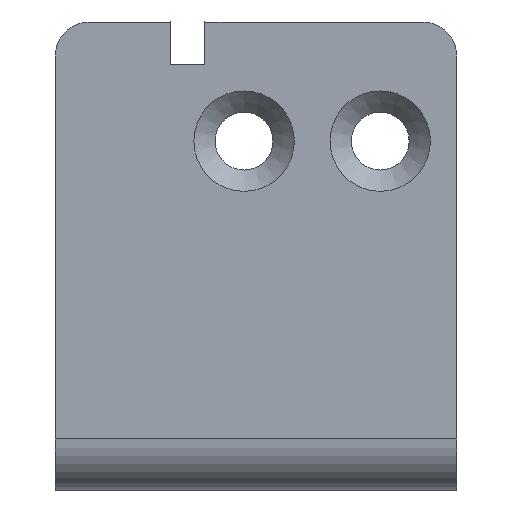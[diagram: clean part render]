
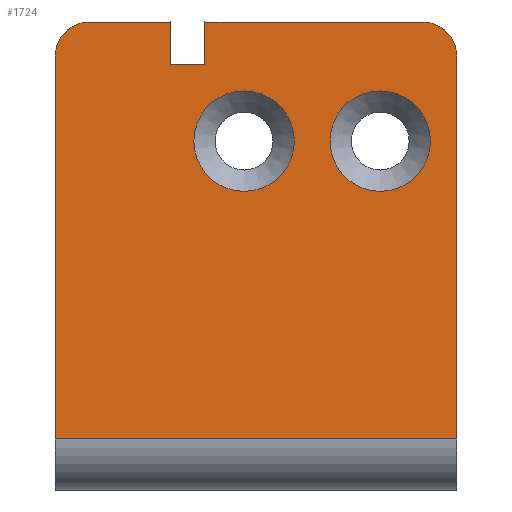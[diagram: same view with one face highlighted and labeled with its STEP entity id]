
A CAD part, left-side view. The second image highlights one B-rep face of the part: STEP entity #1724.
In plain terms, the highlighted planar face has unit normal (-1, 0, 0).
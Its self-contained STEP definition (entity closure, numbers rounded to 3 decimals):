
#140=FACE_BOUND('',#349,.T.);
#141=FACE_BOUND('',#350,.T.);
#174=PLANE('',#1864);
#254=FACE_OUTER_BOUND('',#348,.T.);
#348=EDGE_LOOP('',(#1358,#1359,#1360,#1361,#1362,#1363,#1364,#1365,#1366,
#1367));
#349=EDGE_LOOP('',(#1368));
#350=EDGE_LOOP('',(#1369));
#452=LINE('',#2522,#632);
#462=LINE('',#2551,#642);
#471=LINE('',#2581,#651);
#473=LINE('',#2584,#653);
#474=LINE('',#2586,#654);
#480=LINE('',#2599,#660);
#481=LINE('',#2601,#661);
#482=LINE('',#2602,#662);
#632=VECTOR('',#2056,10.);
#642=VECTOR('',#2080,10.);
#651=VECTOR('',#2115,10.);
#653=VECTOR('',#2119,10.);
#654=VECTOR('',#2122,10.);
#660=VECTOR('',#2136,10.);
#661=VECTOR('',#2137,10.);
#662=VECTOR('',#2138,10.);
#802=CIRCLE('',#1836,2.);
#807=CIRCLE('',#1844,2.);
#812=CIRCLE('',#1855,2.95);
#813=CIRCLE('',#1857,2.95);
#870=VERTEX_POINT('',#2509);
#871=VERTEX_POINT('',#2510);
#875=VERTEX_POINT('',#2520);
#885=VERTEX_POINT('',#2544);
#886=VERTEX_POINT('',#2545);
#887=VERTEX_POINT('',#2550);
#892=VERTEX_POINT('',#2570);
#893=VERTEX_POINT('',#2574);
#894=VERTEX_POINT('',#2578);
#895=VERTEX_POINT('',#2580);
#898=VERTEX_POINT('',#2598);
#899=VERTEX_POINT('',#2600);
#1028=EDGE_CURVE('',#870,#871,#802,.T.);
#1034=EDGE_CURVE('',#875,#870,#452,.T.);
#1045=EDGE_CURVE('',#885,#886,#807,.T.);
#1048=EDGE_CURVE('',#886,#887,#462,.T.);
#1058=EDGE_CURVE('',#892,#892,#812,.T.);
#1060=EDGE_CURVE('',#893,#893,#813,.T.);
#1063=EDGE_CURVE('',#895,#894,#471,.T.);
#1065=EDGE_CURVE('',#875,#895,#473,.T.);
#1066=EDGE_CURVE('',#894,#887,#474,.T.);
#1072=EDGE_CURVE('',#898,#885,#480,.T.);
#1073=EDGE_CURVE('',#898,#899,#481,.T.);
#1074=EDGE_CURVE('',#871,#899,#482,.T.);
#1358=ORIENTED_EDGE('',*,*,#1028,.F.);
#1359=ORIENTED_EDGE('',*,*,#1034,.F.);
#1360=ORIENTED_EDGE('',*,*,#1065,.T.);
#1361=ORIENTED_EDGE('',*,*,#1063,.T.);
#1362=ORIENTED_EDGE('',*,*,#1066,.T.);
#1363=ORIENTED_EDGE('',*,*,#1048,.F.);
#1364=ORIENTED_EDGE('',*,*,#1045,.F.);
#1365=ORIENTED_EDGE('',*,*,#1072,.F.);
#1366=ORIENTED_EDGE('',*,*,#1073,.T.);
#1367=ORIENTED_EDGE('',*,*,#1074,.F.);
#1368=ORIENTED_EDGE('',*,*,#1058,.T.);
#1369=ORIENTED_EDGE('',*,*,#1060,.T.);
#1724=ADVANCED_FACE('',(#254,#140,#141),#174,.F.);
#1836=AXIS2_PLACEMENT_3D('',#2511,#2046,#2047);
#1844=AXIS2_PLACEMENT_3D('',#2546,#2074,#2075);
#1855=AXIS2_PLACEMENT_3D('',#2571,#2104,#2105);
#1857=AXIS2_PLACEMENT_3D('',#2575,#2109,#2110);
#1864=AXIS2_PLACEMENT_3D('',#2597,#2134,#2135);
#2046=DIRECTION('center_axis',(1.,0.,0.));
#2047=DIRECTION('ref_axis',(0.,-0.707,0.707));
#2056=DIRECTION('',(0.,-1.,0.));
#2074=DIRECTION('center_axis',(1.,0.,0.));
#2075=DIRECTION('ref_axis',(0.,0.707,0.707));
#2080=DIRECTION('',(0.,-1.,0.));
#2104=DIRECTION('center_axis',(1.,0.,0.));
#2105=DIRECTION('ref_axis',(0.,0.,1.));
#2109=DIRECTION('center_axis',(1.,0.,0.));
#2110=DIRECTION('ref_axis',(0.,0.,1.));
#2115=DIRECTION('',(0.,1.,0.));
#2119=DIRECTION('',(0.,0.,-1.));
#2122=DIRECTION('',(0.,0.,1.));
#2134=DIRECTION('center_axis',(1.,0.,0.));
#2135=DIRECTION('ref_axis',(0.,0.,-1.));
#2136=DIRECTION('',(0.,0.,1.));
#2137=DIRECTION('',(0.,-1.,0.));
#2138=DIRECTION('',(0.,0.,-1.));
#2509=CARTESIAN_POINT('',(-63.2,-9.8,25.5));
#2510=CARTESIAN_POINT('',(-63.2,-11.8,23.5));
#2511=CARTESIAN_POINT('Origin',(-63.2,-9.8,23.5));
#2520=CARTESIAN_POINT('',(-63.2,3.,25.5));
#2522=CARTESIAN_POINT('',(-63.2,11.8,25.5));
#2544=CARTESIAN_POINT('',(-63.2,11.8,23.5));
#2545=CARTESIAN_POINT('',(-63.2,9.8,25.5));
#2546=CARTESIAN_POINT('Origin',(-63.2,9.8,23.5));
#2550=CARTESIAN_POINT('',(-63.2,5.,25.5));
#2551=CARTESIAN_POINT('',(-63.2,11.8,25.5));
#2570=CARTESIAN_POINT('',(-63.2,0.7,15.55));
#2571=CARTESIAN_POINT('Origin',(-63.2,0.7,18.5));
#2574=CARTESIAN_POINT('',(-63.2,-7.3,15.55));
#2575=CARTESIAN_POINT('Origin',(-63.2,-7.3,18.5));
#2578=CARTESIAN_POINT('',(-63.2,5.,23.));
#2580=CARTESIAN_POINT('',(-63.2,3.,23.));
#2581=CARTESIAN_POINT('',(-63.2,1.5,23.));
#2584=CARTESIAN_POINT('',(-63.2,3.,18.637));
#2586=CARTESIAN_POINT('',(-63.2,5.,17.387));
#2597=CARTESIAN_POINT('Origin',(-63.2,0.,11.773));
#2598=CARTESIAN_POINT('',(-63.2,11.8,1.));
#2599=CARTESIAN_POINT('',(-63.2,11.8,1.));
#2600=CARTESIAN_POINT('',(-63.2,-11.8,1.));
#2601=CARTESIAN_POINT('',(-63.2,0.,1.));
#2602=CARTESIAN_POINT('',(-63.2,-11.8,-1.953));
